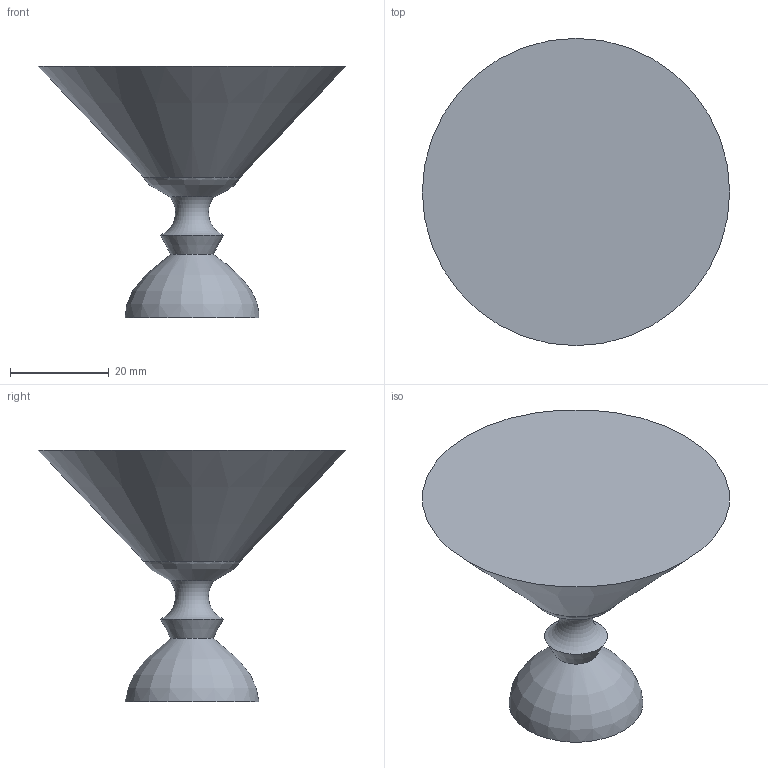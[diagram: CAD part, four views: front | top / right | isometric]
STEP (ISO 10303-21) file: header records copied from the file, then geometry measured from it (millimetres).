
FILE_DESCRIPTION(('Mechanical CAD reference from nasji.com'),'2;1');
FILE_NAME('NASJI.step','',(''),(''),'','NASJI distribution','');
FILE_SCHEMA(('AUTOMOTIVE_DESIGN { 1 0 10303 214 1 1 1 1 }'));
Length unit declared in the file: millimetre
Products named in the file (1): Open CASCADE STEP translator 7.8 197
Bounding box: 62.2 x 62.2 x 50.82 mm (x, y, z)
Volume: 38342.5 mm3; surface area: 9324.3 mm2
Topology: 1 solids, 1 shells, 7 faces, 11 edges, 6 vertices
Faces by surface type: revolution 2, cone 2, plane 2, torus 1
Entity records: 319 total; most frequent: CARTESIAN_POINT 57, DIRECTION 52, ORIENTED_EDGE 22, PCURVE 22, DEFINITIONAL_REPRESENTATION 22, LINE 22, VECTOR 22, AXIS2_PLACEMENT_3D 13
